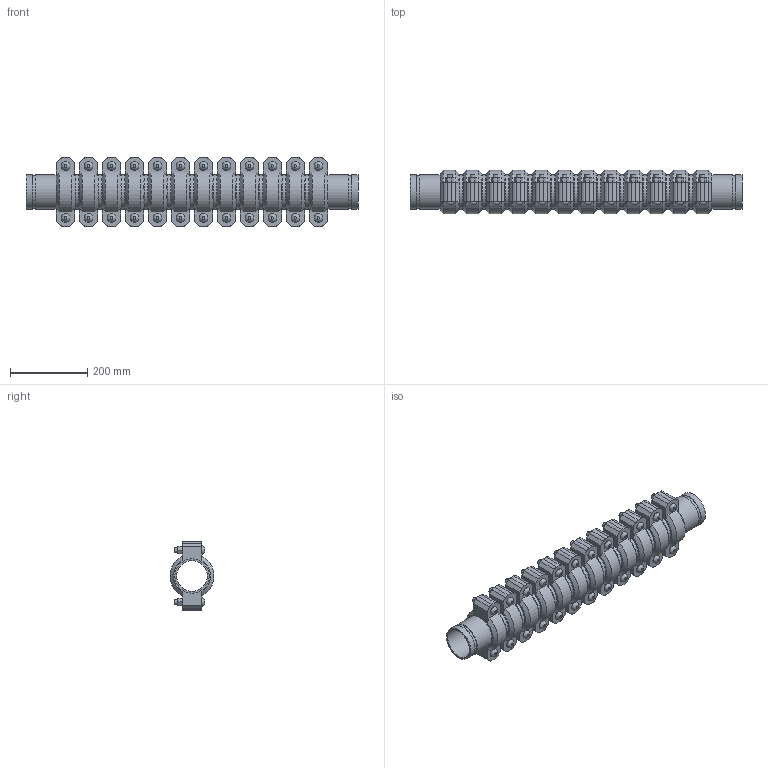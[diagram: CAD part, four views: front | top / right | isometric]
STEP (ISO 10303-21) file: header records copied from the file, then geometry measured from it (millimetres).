
FILE_DESCRIPTION(/* description */ ('VIC SS EXPANSION JOINT 12 COUPLINGS NEUTRAL STYLE 155P (OGS) (POTABLE WATER) ','CAx-IF Rec.Pracs.---Representation and Presentation of Product Manufacturing Information (PMI)---4.0---2014-10-13'),/* implementation_level */ '2;1');
FILE_NAME(/* name */ 'C:\Users\kkamble\AppData\Roaming\Autodesk\ApplicationPlugins\Victaulic.Temp\A871\Victaulic_SS_Expansion Joint_Neutral_12 Couplings_Style 155P (OGS)-Potable Water_12 Coup_Neut_3 (80).stp',/* time_stamp */ '2021-07-16T16:29:47+06:00',/* author */ ('kkamble'),/* organization */ ('Victaulic'),/* preprocessor_version */ 'ST-DEVELOPER v17.2',/* originating_system */ 'Autodesk Inventor 2019',/* authorisation */ '');
FILE_SCHEMA (('AP242_MANAGED_MODEL_BASED_3D_ENGINEERING_MIM_LF { 1 0 10303 442 1 1 4 }'));
Length unit declared in the file: inch
Products named in the file (4): 155P-03.0; Nipple-03.0; Nipple-03.0_1; 075-03.0
Assembly tree (25 placements, depth 2):
  155P-03.0
    Nipple-03.0  x2
    Nipple-03.0_1  x11
    075-03.0  x12
Bounding box: 860.55 x 113.88 x 177.8 mm (x, y, z)
Volume: 4940308.1 mm3; surface area: 1230319.9 mm2
Topology: 25 solids, 49 shells, 840 faces, 1986 edges, 1392 vertices
Faces by surface type: plane 510, cylinder 258, cone 48, bspline 24
Full cylindrical faces by diameter (mm): 12.7 x48, 14.605 x24, 79.35 x13, 82.55 x12, 84.938 x26, 88.9 x63
Entity records: 2913 total; most frequent: CARTESIAN_POINT 509, DIRECTION 493, ORIENTED_EDGE 386, AXIS2_PLACEMENT_3D 200, EDGE_CURVE 193, VERTEX_POINT 138, EDGE_LOOP 107, LINE 93
